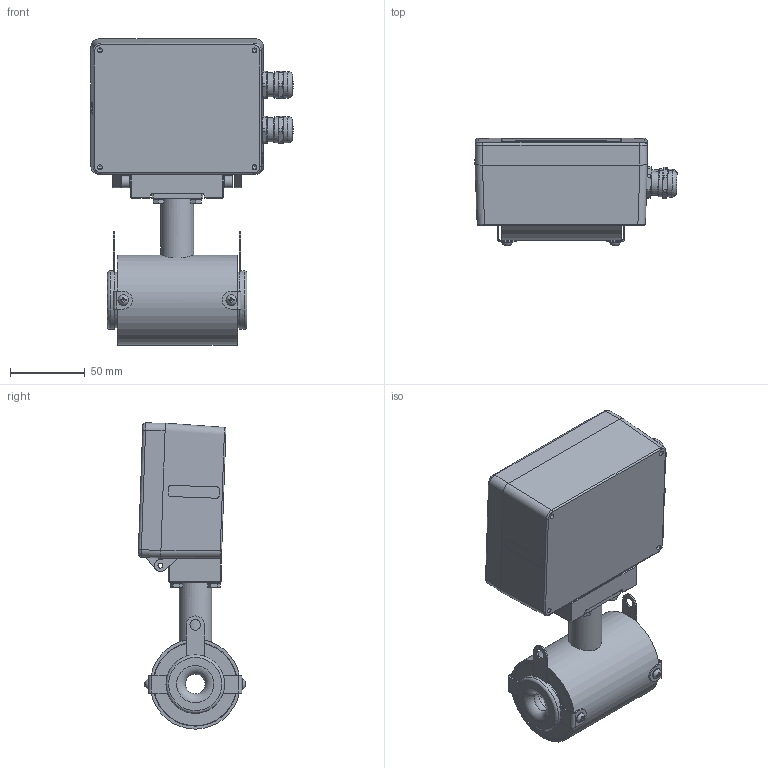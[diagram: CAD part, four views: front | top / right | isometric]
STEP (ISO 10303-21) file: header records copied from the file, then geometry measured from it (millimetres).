
FILE_DESCRIPTION(('STEP AP203'), '1');
FILE_NAME('Âçëåò ÝÌ ÏÐÎÔÈ DN15 Ñýíäâè÷', '', ('UNSPECIFIED'), ('UNSPECIFIED'), 'C3D Converter', 'C3D Toolkit', '');
FILE_SCHEMA(('CONFIG_CONTROL_DESIGN'));
Length unit declared in the file: millimetre
Products named in the file (1): ШКСД.407212.004-002-01
Bounding box: 134.72 x 71.62 x 204.17 mm (x, y, z)
Surface area: 156540.8 mm2
Topology: 2 solids, 11 shells, 925 faces, 2225 edges, 1395 vertices
Faces by surface type: plane 462, cylinder 270, cone 89, bspline 68, torus 32, sphere 4
Full cylindrical faces by diameter (mm): 0.8 x1, 2 x2, 3.242 x18, 3.422 x2, 4 x8, 4.134 x1, 4.5 x10, 4.917 x2, 5 x4, 6 x4, 6.2 x2, 7 x6, 7.5 x4, 8.7 x2, 12 x4, 14 x1, 15 x4, 16 x8, 16.3 x2, 17.5 x4, 19 x1, 20.2 x1, 22 x1, 23 x2, 26 x3, 27 x1, 37 x2, 39 x2, 54 x2, 55 x1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
Entity records: 50708 total; most frequent: CARTESIAN_POINT 22980, DIRECTION 4037, ORIENTED_EDGE 4000, EDGE_CURVE 2006, AXIS2_PLACEMENT_3D 1540, VERTEX_POINT 1376, EDGE_LOOP 1244, LINE 957
